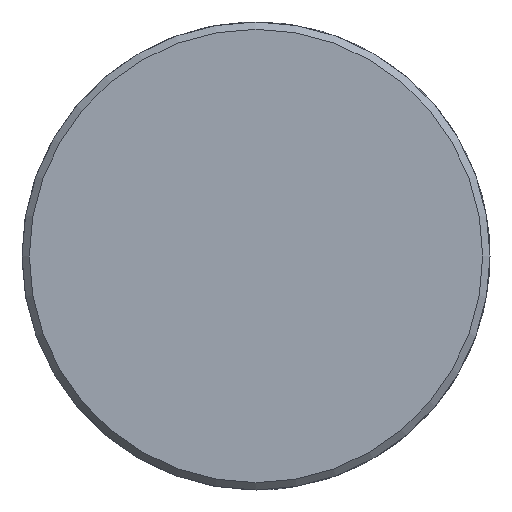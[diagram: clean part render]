
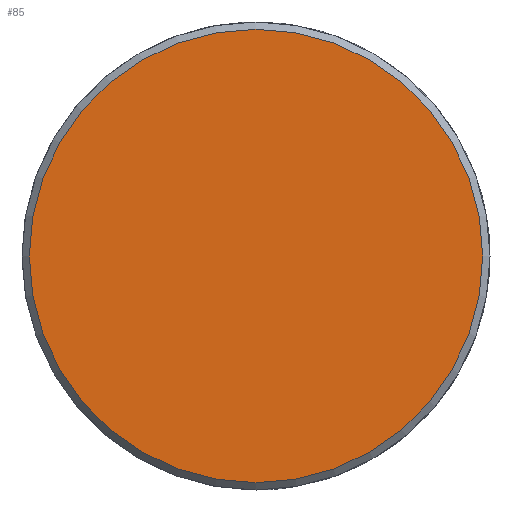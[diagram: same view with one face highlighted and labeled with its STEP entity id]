
A CAD part, front view. The second image highlights one B-rep face of the part: STEP entity #85.
In plain terms, the highlighted planar face has unit normal (0, -1, 0).
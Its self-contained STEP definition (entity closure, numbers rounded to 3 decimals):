
#85 = ADVANCED_FACE( '', ( #115 ), #116, .F. );
#115 = FACE_OUTER_BOUND( '', #150, .T. );
#116 = PLANE( '', #151 );
#150 = EDGE_LOOP( '', ( #239 ) );
#151 = AXIS2_PLACEMENT_3D( '', #240, #241, #242 );
#239 = ORIENTED_EDGE( '', *, *, #314, .T. );
#240 = CARTESIAN_POINT( '', ( 15.5, 0., 0. ) );
#241 = DIRECTION( '', ( 0., 1., 0. ) );
#242 = DIRECTION( '', ( 0., 0., 1. ) );
#314 = EDGE_CURVE( '', #373, #373, #374, .T. );
#373 = VERTEX_POINT( '', #542 );
#374 = CIRCLE( '', #543, 15.5 );
#542 = CARTESIAN_POINT( '', ( 0., 0., -15.5 ) );
#543 = AXIS2_PLACEMENT_3D( '', #608, #609, #610 );
#608 = CARTESIAN_POINT( '', ( 0., 0., 0. ) );
#609 = DIRECTION( '', ( 0., -1., 0. ) );
#610 = DIRECTION( '', ( 0., 0., -1. ) );
